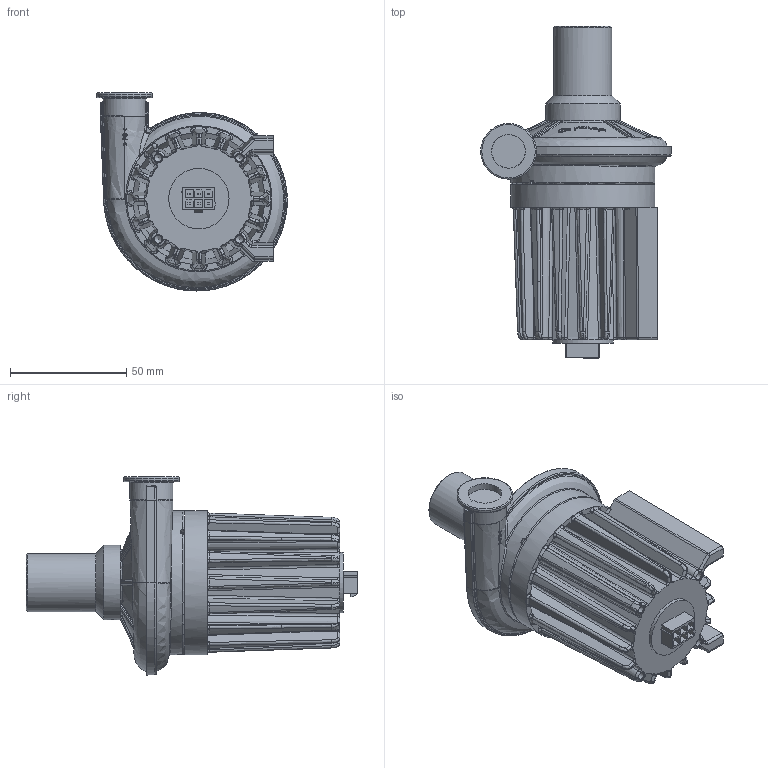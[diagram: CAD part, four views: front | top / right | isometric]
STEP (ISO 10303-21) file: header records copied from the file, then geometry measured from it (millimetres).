
FILE_DESCRIPTION(/* description */ (''),/* implementation_level */ '2;1');
FILE_NAME(/* name */ 'U85HL-024KH-41.stp',/* time_stamp */ '2024-06-10T13:03:16+02:00',/* author */ (''),/* organization */ (''),/* preprocessor_version */ 'ST-DEVELOPER v16.7',/* originating_system */ 'SIEMENS PLM Software NX 1946',/* authorisation */ '');
FILE_SCHEMA (('AUTOMOTIVE_DESIGN { 1 0 10303 214 3 1 1 1 }'));
Products named in the file (1): 021687_1-U85HL-024KH-41_simple _-_
Bounding box: 82.11 x 142.9 x 85.27 mm (x, y, z)
Volume: 260686.2 mm3; surface area: 52442.6 mm2
Topology: 1 solids, 1 shells, 1322 faces, 3336 edges, 2025 vertices
Faces by surface type: plane 424, bspline 399, cylinder 293, cone 123, torus 54, sphere 28, revolution 1
Full cylindrical faces by diameter (mm): 3.3 x8, 4 x1, 14.5 x1, 18.5 x1, 19 x1, 23 x1, 24 x1, 25 x1, 26 x1, 27 x1, 27.1 x1, 32.1 x1, 56.6 x1, 62 x1
Entity records: 56724 total; most frequent: CARTESIAN_POINT 29970, ORIENTED_EDGE 6426, DIRECTION 3934, EDGE_CURVE 3213, VERTEX_POINT 1992, B_SPLINE_CURVE_WITH_KNOTS 1631, AXIS2_PLACEMENT_3D 1478, EDGE_LOOP 1415
